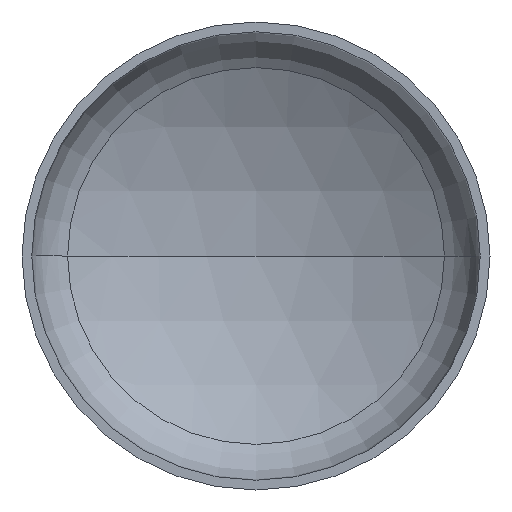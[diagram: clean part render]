
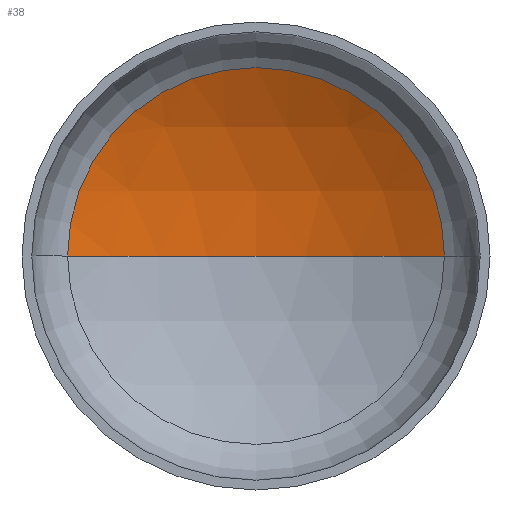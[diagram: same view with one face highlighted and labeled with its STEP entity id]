
A CAD part, front view. The second image highlights one B-rep face of the part: STEP entity #38.
In plain terms, the highlighted spherical face has radius 960 mm.
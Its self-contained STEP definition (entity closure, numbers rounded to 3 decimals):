
#9 = AXIS2_PLACEMENT_3D ( 'NONE', #247, #73, #271 ) ;
#10 = AXIS2_PLACEMENT_3D ( 'NONE', #117, #119, #124 ) ;
#28 = DIRECTION ( 'NONE',  ( 1., 0., 0. ) ) ;
#38 = ADVANCED_FACE ( 'NONE', ( #370 ), #295, .F. ) ;
#45 = AXIS2_PLACEMENT_3D ( 'NONE', #216, #260, #263 ) ;
#51 = AXIS2_PLACEMENT_3D ( 'NONE', #104, #310, #28 ) ;
#57 = CIRCLE ( 'NONE', #51, 960. ) ;
#73 = DIRECTION ( 'NONE',  ( 0., 0., -1. ) ) ;
#91 = EDGE_LOOP ( 'NONE', ( #163, #232, #95 ) ) ;
#95 = ORIENTED_EDGE ( 'NONE', *, *, #322, .T. ) ;
#104 = CARTESIAN_POINT ( 'NONE',  ( 0., -594.72, 0. ) ) ;
#105 = CIRCLE ( 'NONE', #10, 483.097 ) ;
#117 = CARTESIAN_POINT ( 'NONE',  ( 0., 234.869, 0. ) ) ;
#119 = DIRECTION ( 'NONE',  ( 0., -1., 0. ) ) ;
#124 = DIRECTION ( 'NONE',  ( 1., 0., 0. ) ) ;
#158 = CARTESIAN_POINT ( 'NONE',  ( 0., 365.28, 0. ) ) ;
#163 = ORIENTED_EDGE ( 'NONE', *, *, #388, .F. ) ;
#164 = CARTESIAN_POINT ( 'NONE',  ( -483.097, 234.869, 0. ) ) ;
#216 = CARTESIAN_POINT ( 'NONE',  ( 0., -594.72, 0. ) ) ;
#232 = ORIENTED_EDGE ( 'NONE', *, *, #329, .T. ) ;
#233 = CIRCLE ( 'NONE', #9, 960. ) ;
#241 = VERTEX_POINT ( 'NONE', #158 ) ;
#247 = CARTESIAN_POINT ( 'NONE',  ( 0., -594.72, 0. ) ) ;
#260 = DIRECTION ( 'NONE',  ( 0., 0., -1. ) ) ;
#263 = DIRECTION ( 'NONE',  ( -1., 0., 0. ) ) ;
#271 = DIRECTION ( 'NONE',  ( -1., 0., 0. ) ) ;
#274 = VERTEX_POINT ( 'NONE', #164 ) ;
#295 = SPHERICAL_SURFACE ( 'NONE', #45, 960. ) ;
#309 = CARTESIAN_POINT ( 'NONE',  ( 483.097, 234.869, 0. ) ) ;
#310 = DIRECTION ( 'NONE',  ( 0., 0., 1. ) ) ;
#322 = EDGE_CURVE ( 'NONE', #406, #274, #105, .T. ) ;
#329 = EDGE_CURVE ( 'NONE', #241, #406, #233, .T. ) ;
#370 = FACE_OUTER_BOUND ( 'NONE', #91, .T. ) ;
#388 = EDGE_CURVE ( 'NONE', #241, #274, #57, .T. ) ;
#406 = VERTEX_POINT ( 'NONE', #309 ) ;
